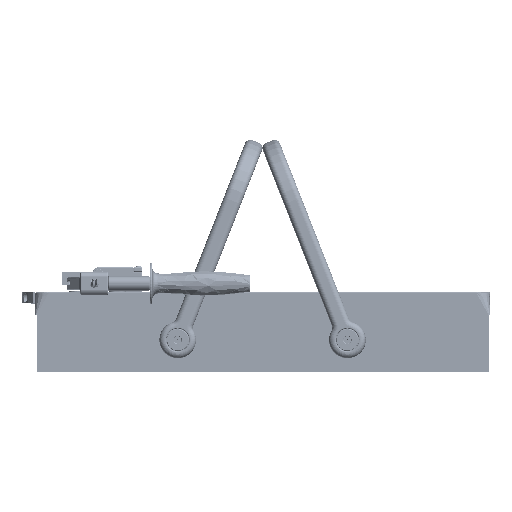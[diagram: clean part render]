
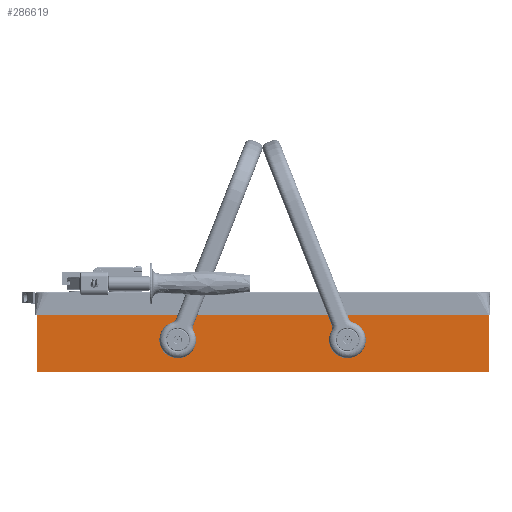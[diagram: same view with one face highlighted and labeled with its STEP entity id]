
A CAD part, top view. The second image highlights one B-rep face of the part: STEP entity #286619.
In plain terms, the highlighted planar face has unit normal (0, 0, 1).
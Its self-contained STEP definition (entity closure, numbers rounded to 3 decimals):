
#1114 = VERTEX_POINT ( 'NONE', #134384 ) ;
#6370 = ORIENTED_EDGE ( 'NONE', *, *, #96973, .F. ) ;
#10981 = DIRECTION ( 'NONE',  ( 0., 0., 1. ) ) ;
#22782 = VERTEX_POINT ( 'NONE', #146666 ) ;
#28275 = CARTESIAN_POINT ( 'NONE',  ( -246.375, -1., 48.8 ) ) ;
#28767 = CARTESIAN_POINT ( 'NONE',  ( -92.5, 34., 48.8 ) ) ;
#37524 = CARTESIAN_POINT ( 'NONE',  ( 246.375, -1., 48.8 ) ) ;
#42958 = CIRCLE ( 'NONE', #151875, 6. ) ;
#53525 = ORIENTED_EDGE ( 'NONE', *, *, #197943, .F. ) ;
#54402 = CARTESIAN_POINT ( 'NONE',  ( -98.5, 34., 48.8 ) ) ;
#55102 = LINE ( 'NONE', #289328, #208494 ) ;
#60880 = DIRECTION ( 'NONE',  ( 1., 0., 0. ) ) ;
#65265 = CIRCLE ( 'NONE', #198730, 6. ) ;
#65357 = EDGE_CURVE ( 'NONE', #282859, #239426, #65265, .T. ) ;
#73560 = VERTEX_POINT ( 'NONE', #116598 ) ;
#74133 = CARTESIAN_POINT ( 'NONE',  ( -246.375, 9., 48.8 ) ) ;
#77579 = VECTOR ( 'NONE', #266439, 1000. ) ;
#84514 = EDGE_CURVE ( 'NONE', #22782, #273054, #91302, .T. ) ;
#87416 = VERTEX_POINT ( 'NONE', #54402 ) ;
#90303 = PLANE ( 'NONE',  #110127 ) ;
#91302 = LINE ( 'NONE', #28275, #323924 ) ;
#94441 = EDGE_LOOP ( 'NONE', ( #138201, #215403 ) ) ;
#95767 = FACE_BOUND ( 'NONE', #94441, .T. ) ;
#96973 = EDGE_CURVE ( 'NONE', #73560, #273054, #55102, .T. ) ;
#110127 = AXIS2_PLACEMENT_3D ( 'NONE', #288858, #119621, #120825 ) ;
#111662 = DIRECTION ( 'NONE',  ( 1., 0., 0. ) ) ;
#116598 = CARTESIAN_POINT ( 'NONE',  ( 246.375, 61., 48.8 ) ) ;
#118882 = DIRECTION ( 'NONE',  ( 0., -1., 0. ) ) ;
#119621 = DIRECTION ( 'NONE',  ( 0., 0., -1. ) ) ;
#120825 = DIRECTION ( 'NONE',  ( 0., -1., 0. ) ) ;
#126651 = VERTEX_POINT ( 'NONE', #228454 ) ;
#131159 = CARTESIAN_POINT ( 'NONE',  ( 86.5, 34., 48.8 ) ) ;
#132722 = EDGE_CURVE ( 'NONE', #126651, #22782, #153007, .T. ) ;
#133112 = EDGE_CURVE ( 'NONE', #87416, #1114, #42958, .T. ) ;
#134384 = CARTESIAN_POINT ( 'NONE',  ( -86.5, 34., 48.8 ) ) ;
#138201 = ORIENTED_EDGE ( 'NONE', *, *, #65357, .F. ) ;
#141545 = DIRECTION ( 'NONE',  ( 1., 0., 0. ) ) ;
#143315 = LINE ( 'NONE', #154697, #77579 ) ;
#146666 = CARTESIAN_POINT ( 'NONE',  ( -246.375, -1., 48.8 ) ) ;
#151875 = AXIS2_PLACEMENT_3D ( 'NONE', #309386, #259079, #201370 ) ;
#153007 = LINE ( 'NONE', #74133, #284691 ) ;
#154697 = CARTESIAN_POINT ( 'NONE',  ( -246.375, 61., 48.8 ) ) ;
#160528 = ORIENTED_EDGE ( 'NONE', *, *, #133112, .F. ) ;
#170214 = FACE_OUTER_BOUND ( 'NONE', #297778, .T. ) ;
#181451 = CARTESIAN_POINT ( 'NONE',  ( 98.5, 34., 48.8 ) ) ;
#187717 = EDGE_CURVE ( 'NONE', #1114, #87416, #305872, .T. ) ;
#197943 = EDGE_CURVE ( 'NONE', #126651, #73560, #143315, .T. ) ;
#198730 = AXIS2_PLACEMENT_3D ( 'NONE', #320005, #10981, #349459 ) ;
#201370 = DIRECTION ( 'NONE',  ( 1., 0., 0. ) ) ;
#201917 = EDGE_LOOP ( 'NONE', ( #207830, #160528 ) ) ;
#207830 = ORIENTED_EDGE ( 'NONE', *, *, #187717, .F. ) ;
#208494 = VECTOR ( 'NONE', #118882, 1000. ) ;
#215403 = ORIENTED_EDGE ( 'NONE', *, *, #232753, .F. ) ;
#217096 = ORIENTED_EDGE ( 'NONE', *, *, #132722, .T. ) ;
#228454 = CARTESIAN_POINT ( 'NONE',  ( -246.375, 61., 48.8 ) ) ;
#232753 = EDGE_CURVE ( 'NONE', #239426, #282859, #236895, .T. ) ;
#236895 = CIRCLE ( 'NONE', #334587, 6. ) ;
#239426 = VERTEX_POINT ( 'NONE', #131159 ) ;
#240608 = FACE_BOUND ( 'NONE', #201917, .T. ) ;
#255181 = ORIENTED_EDGE ( 'NONE', *, *, #84514, .T. ) ;
#259079 = DIRECTION ( 'NONE',  ( 0., 0., 1. ) ) ;
#266439 = DIRECTION ( 'NONE',  ( 1., 0., 0. ) ) ;
#273054 = VERTEX_POINT ( 'NONE', #37524 ) ;
#282859 = VERTEX_POINT ( 'NONE', #181451 ) ;
#284691 = VECTOR ( 'NONE', #325542, 1000. ) ;
#286619 = ADVANCED_FACE ( 'NONE', ( #170214, #95767, #240608 ), #90303, .F. ) ;
#287629 = CARTESIAN_POINT ( 'NONE',  ( 92.5, 34., 48.8 ) ) ;
#288858 = CARTESIAN_POINT ( 'NONE',  ( 246.375, 9., 48.8 ) ) ;
#289328 = CARTESIAN_POINT ( 'NONE',  ( 246.375, 9., 48.8 ) ) ;
#297778 = EDGE_LOOP ( 'NONE', ( #255181, #6370, #53525, #217096 ) ) ;
#305872 = CIRCLE ( 'NONE', #327727, 6. ) ;
#309386 = CARTESIAN_POINT ( 'NONE',  ( -92.5, 34., 48.8 ) ) ;
#309590 = DIRECTION ( 'NONE',  ( 0., 0., 1. ) ) ;
#320005 = CARTESIAN_POINT ( 'NONE',  ( 92.5, 34., 48.8 ) ) ;
#323924 = VECTOR ( 'NONE', #111662, 1000. ) ;
#325542 = DIRECTION ( 'NONE',  ( 0., -1., 0. ) ) ;
#327727 = AXIS2_PLACEMENT_3D ( 'NONE', #28767, #309590, #141545 ) ;
#334587 = AXIS2_PLACEMENT_3D ( 'NONE', #287629, #339253, #60880 ) ;
#339253 = DIRECTION ( 'NONE',  ( 0., 0., 1. ) ) ;
#349459 = DIRECTION ( 'NONE',  ( 1., 0., 0. ) ) ;
